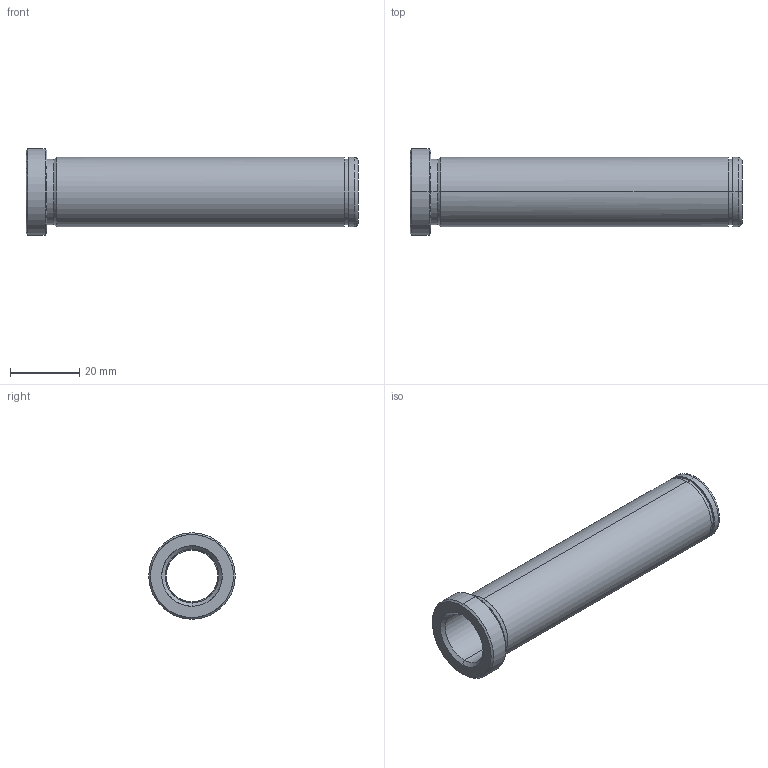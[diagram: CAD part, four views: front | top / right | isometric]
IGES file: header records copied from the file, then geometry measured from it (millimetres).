
Start section: START RECORD GO HERE.
Global section: file name: 553-15X96.igs; native system: DASSAULT SYSTEMES CATIA V5 R20 - www.3ds.com; preprocessor: CATIA Version 5 Release 20 ; author: Utente; organization: NB04-ASUS; date: 20210521.204128; units: millimetre
Bounding box: 96 x 25 x 25 mm (x, y, z)
Surface area: 11314.6 mm2 (no closed solid volume)
Topology: 0 solids, 0 shells, 31 faces, 196 edges, 196 vertices
Faces by surface type: revolution 26, plane 5
